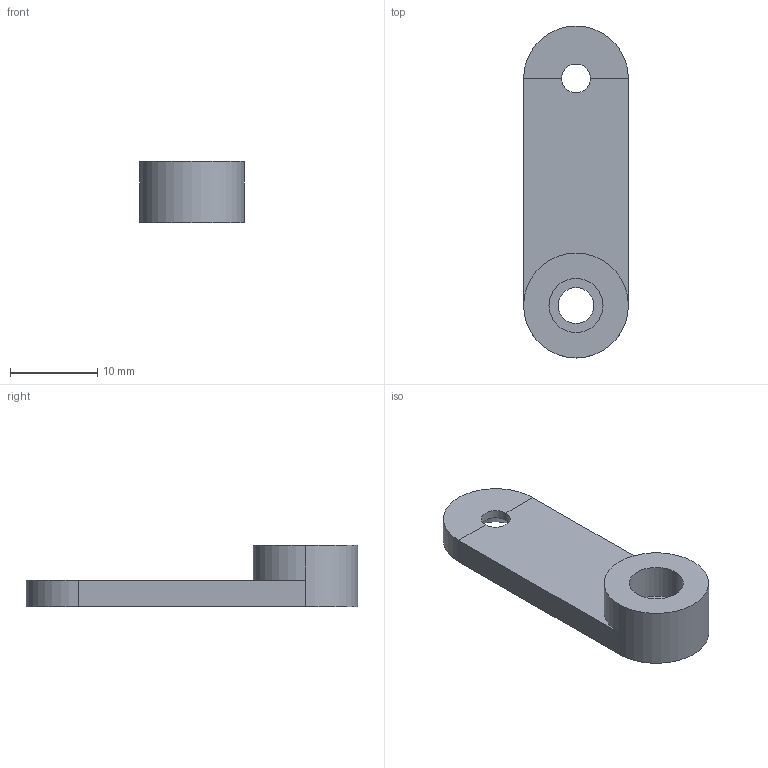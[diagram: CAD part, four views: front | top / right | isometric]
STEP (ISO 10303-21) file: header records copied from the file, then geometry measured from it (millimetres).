
FILE_DESCRIPTION(/* description */ ('VariCAD 2010-1.04 AP-203'),/* implementation_level */ '2;1');
FILE_NAME(/* name */ '0353-18-20',/* time_stamp */ '2010-01-26T12:38:40-07:00',/* author */ (''),/* organization */ (''),/* preprocessor_version */ 'ST-DEVELOPER v12',/* originating_system */ 'VariCAD 2010-1.04; kernel version (20090520)',/* authorisation */ '');
FILE_SCHEMA (('CONFIG_CONTROL_DESIGN'));
Length unit declared in the file: millimetre
Products named in the file (1): Part
Bounding box: 12 x 38 x 7 mm (x, y, z)
Volume: 1512.5 mm3; surface area: 1367.3 mm2
Topology: 1 solids, 1 shells, 20 faces, 44 edges, 24 vertices
Faces by surface type: plane 9, cylinder 9, cone 2
Entity records: 594 total; most frequent: DIRECTION 108, CARTESIAN_POINT 90, ORIENTED_EDGE 88, EDGE_CURVE 44, AXIS2_PLACEMENT_3D 42, LINE 24, VECTOR 24, VERTEX_POINT 24
